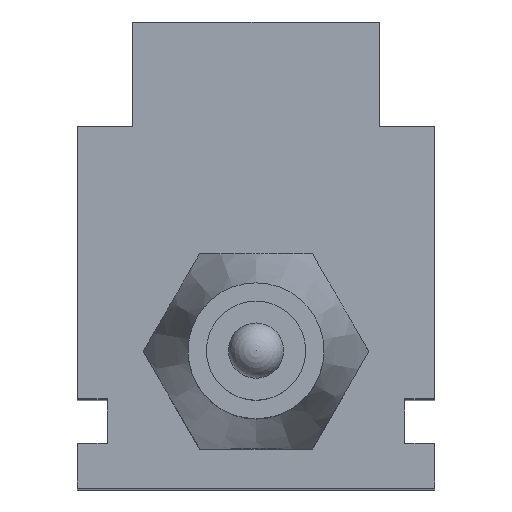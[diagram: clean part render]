
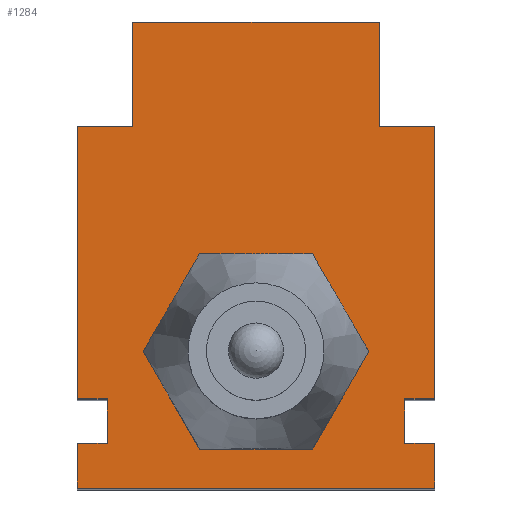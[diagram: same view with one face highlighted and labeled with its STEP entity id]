
A CAD part, top view. The second image highlights one B-rep face of the part: STEP entity #1284.
In plain terms, the highlighted planar face has unit normal (0, 0, 1).
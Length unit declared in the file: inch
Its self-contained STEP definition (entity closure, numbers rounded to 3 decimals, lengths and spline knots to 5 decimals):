
#40=FACE_BOUND('',#164,.T.);
#61=CIRCLE('',#1375,0.178);
#85=FACE_OUTER_BOUND('',#163,.T.);
#163=EDGE_LOOP('',(#853,#854,#855,#856,#857,#858,#859,#860,#861,#862,#863,
#864,#865,#866,#867,#868));
#164=EDGE_LOOP('',(#869));
#269=LINE('',#1824,#410);
#270=LINE('',#1827,#411);
#272=LINE('',#1831,#413);
#275=LINE('',#1837,#416);
#276=LINE('',#1839,#417);
#277=LINE('',#1841,#418);
#278=LINE('',#1843,#419);
#279=LINE('',#1845,#420);
#280=LINE('',#1847,#421);
#281=LINE('',#1849,#422);
#282=LINE('',#1851,#423);
#283=LINE('',#1853,#424);
#284=LINE('',#1855,#425);
#285=LINE('',#1857,#426);
#286=LINE('',#1859,#427);
#287=LINE('',#1860,#428);
#410=VECTOR('',#1489,0.3937);
#411=VECTOR('',#1492,0.3937);
#413=VECTOR('',#1496,0.3937);
#416=VECTOR('',#1501,0.3937);
#417=VECTOR('',#1502,0.3937);
#418=VECTOR('',#1503,0.3937);
#419=VECTOR('',#1504,0.3937);
#420=VECTOR('',#1505,0.3937);
#421=VECTOR('',#1506,0.3937);
#422=VECTOR('',#1507,0.3937);
#423=VECTOR('',#1508,0.3937);
#424=VECTOR('',#1509,0.3937);
#425=VECTOR('',#1510,0.3937);
#426=VECTOR('',#1511,0.3937);
#427=VECTOR('',#1512,0.3937);
#428=VECTOR('',#1513,0.3937);
#545=VERTEX_POINT('',#1819);
#546=VERTEX_POINT('',#1822);
#547=VERTEX_POINT('',#1826);
#548=VERTEX_POINT('',#1830);
#550=VERTEX_POINT('',#1836);
#551=VERTEX_POINT('',#1838);
#552=VERTEX_POINT('',#1840);
#553=VERTEX_POINT('',#1842);
#554=VERTEX_POINT('',#1844);
#555=VERTEX_POINT('',#1846);
#556=VERTEX_POINT('',#1848);
#557=VERTEX_POINT('',#1850);
#558=VERTEX_POINT('',#1852);
#559=VERTEX_POINT('',#1854);
#560=VERTEX_POINT('',#1856);
#561=VERTEX_POINT('',#1858);
#562=VERTEX_POINT('',#1861);
#668=EDGE_CURVE('',#545,#546,#269,.T.);
#669=EDGE_CURVE('',#546,#547,#270,.T.);
#671=EDGE_CURVE('',#545,#548,#272,.T.);
#674=EDGE_CURVE('',#550,#547,#275,.T.);
#675=EDGE_CURVE('',#550,#551,#276,.T.);
#676=EDGE_CURVE('',#551,#552,#277,.T.);
#677=EDGE_CURVE('',#553,#552,#278,.T.);
#678=EDGE_CURVE('',#554,#553,#279,.T.);
#679=EDGE_CURVE('',#555,#554,#280,.T.);
#680=EDGE_CURVE('',#556,#555,#281,.T.);
#681=EDGE_CURVE('',#557,#556,#282,.T.);
#682=EDGE_CURVE('',#558,#557,#283,.T.);
#683=EDGE_CURVE('',#559,#558,#284,.T.);
#684=EDGE_CURVE('',#560,#559,#285,.T.);
#685=EDGE_CURVE('',#561,#560,#286,.T.);
#686=EDGE_CURVE('',#548,#561,#287,.T.);
#687=EDGE_CURVE('',#562,#562,#61,.T.);
#853=ORIENTED_EDGE('',*,*,#668,.T.);
#854=ORIENTED_EDGE('',*,*,#669,.T.);
#855=ORIENTED_EDGE('',*,*,#674,.F.);
#856=ORIENTED_EDGE('',*,*,#675,.T.);
#857=ORIENTED_EDGE('',*,*,#676,.T.);
#858=ORIENTED_EDGE('',*,*,#677,.F.);
#859=ORIENTED_EDGE('',*,*,#678,.F.);
#860=ORIENTED_EDGE('',*,*,#679,.F.);
#861=ORIENTED_EDGE('',*,*,#680,.F.);
#862=ORIENTED_EDGE('',*,*,#681,.F.);
#863=ORIENTED_EDGE('',*,*,#682,.F.);
#864=ORIENTED_EDGE('',*,*,#683,.F.);
#865=ORIENTED_EDGE('',*,*,#684,.F.);
#866=ORIENTED_EDGE('',*,*,#685,.F.);
#867=ORIENTED_EDGE('',*,*,#686,.F.);
#868=ORIENTED_EDGE('',*,*,#671,.F.);
#869=ORIENTED_EDGE('',*,*,#687,.T.);
#1165=PLANE('',#1374);
#1284=ADVANCED_FACE('',(#85,#40),#1165,.T.);
#1374=AXIS2_PLACEMENT_3D('',#1835,#1499,#1500);
#1375=AXIS2_PLACEMENT_3D('',#1862,#1514,#1515);
#1489=DIRECTION('',(-1.,0.,0.));
#1492=DIRECTION('',(0.,1.,0.));
#1496=DIRECTION('',(0.,-1.,0.));
#1499=DIRECTION('center_axis',(0.,0.,1.));
#1500=DIRECTION('ref_axis',(1.,0.,0.));
#1501=DIRECTION('',(1.,0.,0.));
#1502=DIRECTION('',(0.,-1.,0.));
#1503=DIRECTION('',(-1.,0.,0.));
#1504=DIRECTION('',(0.,1.,0.));
#1505=DIRECTION('',(-1.,0.,0.));
#1506=DIRECTION('',(0.,1.,0.));
#1507=DIRECTION('',(1.,0.,0.));
#1508=DIRECTION('',(0.,1.,0.));
#1509=DIRECTION('',(-1.,0.,0.));
#1510=DIRECTION('',(0.,-1.,0.));
#1511=DIRECTION('',(1.,0.,0.));
#1512=DIRECTION('',(0.,-1.,0.));
#1513=DIRECTION('',(-1.,0.,0.));
#1514=DIRECTION('center_axis',(0.,0.,-1.));
#1515=DIRECTION('ref_axis',(1.,0.,0.));
#1819=CARTESIAN_POINT('',(0.35998,0.4564,-2.07197));
#1822=CARTESIAN_POINT('',(0.24877,0.4564,-2.07197));
#1824=CARTESIAN_POINT('',(0.12438,0.4564,-2.07197));
#1826=CARTESIAN_POINT('',(0.24877,0.6664,-2.07197));
#1827=CARTESIAN_POINT('',(0.24877,0.42011,-2.07197));
#1830=CARTESIAN_POINT('',(0.35998,-0.0936,-2.07197));
#1831=CARTESIAN_POINT('',(0.35998,0.6664,-2.07197));
#1835=CARTESIAN_POINT('Origin',(-0.00002,0.17382,
-2.07197));
#1836=CARTESIAN_POINT('',(-0.24877,0.6664,-2.07197));
#1837=CARTESIAN_POINT('',(-0.36002,0.6664,-2.07197));
#1838=CARTESIAN_POINT('',(-0.24877,0.4564,-2.07197));
#1839=CARTESIAN_POINT('',(-0.24877,0.42011,-2.07197));
#1840=CARTESIAN_POINT('',(-0.36002,0.4564,-2.07197));
#1841=CARTESIAN_POINT('',(-0.1244,0.4564,-2.07197));
#1842=CARTESIAN_POINT('',(-0.36002,-0.0936,-2.07197));
#1843=CARTESIAN_POINT('',(-0.36002,-0.0936,-2.07197));
#1844=CARTESIAN_POINT('',(-0.30002,-0.0936,-2.07197));
#1845=CARTESIAN_POINT('',(-0.30002,-0.0936,-2.07197));
#1846=CARTESIAN_POINT('',(-0.30002,-0.1836,-2.07197));
#1847=CARTESIAN_POINT('',(-0.30002,-0.1836,-2.07197));
#1848=CARTESIAN_POINT('',(-0.36002,-0.1836,-2.07197));
#1849=CARTESIAN_POINT('',(-0.36002,-0.1836,-2.07197));
#1850=CARTESIAN_POINT('',(-0.36002,-0.2736,-2.07197));
#1851=CARTESIAN_POINT('',(-0.36002,-0.2736,-2.07197));
#1852=CARTESIAN_POINT('',(0.35998,-0.2736,-2.07197));
#1853=CARTESIAN_POINT('',(0.35998,-0.2736,-2.07197));
#1854=CARTESIAN_POINT('',(0.35998,-0.1836,-2.07197));
#1855=CARTESIAN_POINT('',(0.35998,0.6664,-2.07197));
#1856=CARTESIAN_POINT('',(0.29998,-0.1836,-2.07197));
#1857=CARTESIAN_POINT('',(0.29998,-0.1836,-2.07197));
#1858=CARTESIAN_POINT('',(0.29998,-0.0936,-2.07197));
#1859=CARTESIAN_POINT('',(0.29998,-0.0936,-2.07197));
#1860=CARTESIAN_POINT('',(0.35998,-0.0936,-2.07197));
#1861=CARTESIAN_POINT('',(-0.178,0.,-2.07197));
#1862=CARTESIAN_POINT('Origin',(0.,0.,-2.07197));
